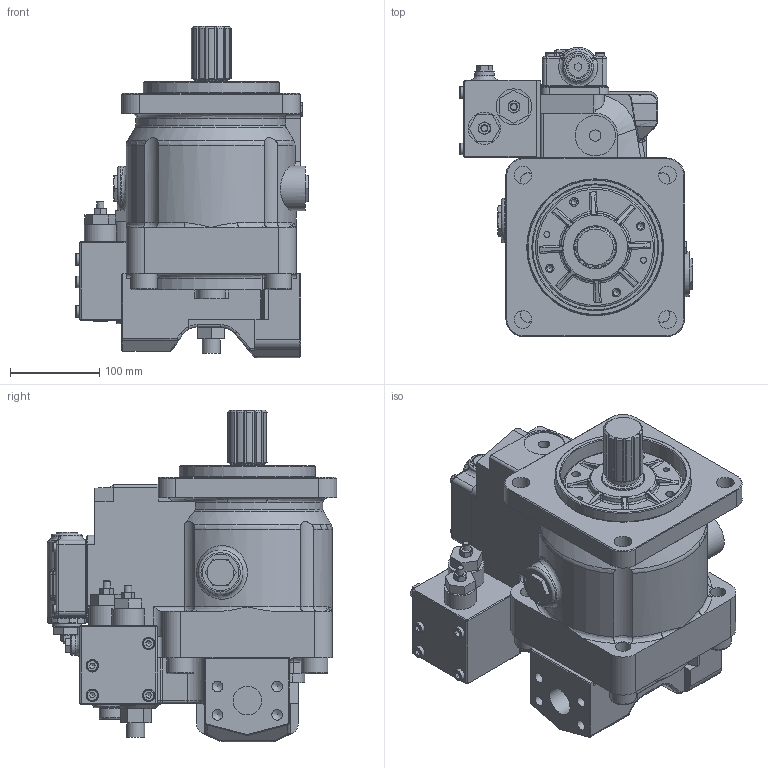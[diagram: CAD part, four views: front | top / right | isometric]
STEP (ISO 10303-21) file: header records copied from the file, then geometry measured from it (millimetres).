
FILE_DESCRIPTION((''),'2;1');
FILE_NAME('I:\Inventor\K3V, M2X\MODEL LIBRARY\K3VL140B 10RSS PO 1-H2.stp','2007-02-13T13:48:26',('mnorman'),(''),'Autodesk Inventor 11','Autodesk Inventor 11','');
FILE_SCHEMA(('AUTOMOTIVE_DESIGN { 1 0 10303 214 1 1 1 1 }'));
Length unit declared in the file: millimetre
Products named in the file (1): Part2
Bounding box: 261 x 323.93 x 371 mm (x, y, z)
Volume: 11505812.3 mm3; surface area: 535635 mm2
Topology: 1 solids, 22 shells, 1201 faces, 2856 edges, 1753 vertices
Faces by surface type: plane 520, cylinder 247, bspline 223, cone 164, torus 38, sphere 9
Full cylindrical faces by diameter (mm): 6 x4, 8 x10, 9.5 x4, 10 x4, 12.717 x1, 13 x4, 16 x2, 20 x5, 21 x1, 22 x1, 24 x2, 26 x1, 30 x6, 32 x5, 33 x2, 36 x1, 36.7 x1, 40 x1, 41 x2, 45 x1, 48 x2, 50 x2, 64 x1, 68 x1, 90 x1, 100 x1, 134 x1, 140 x1, 152.4 x1
Entity records: 41884 total; most frequent: CARTESIAN_POINT 17156, ORIENTED_EDGE 5086, DIRECTION 4904, EDGE_CURVE 2543, AXIS2_PLACEMENT_3D 1926, VERTEX_POINT 1653, EDGE_LOOP 1500, FACE_OUTER_BOUND 1200
